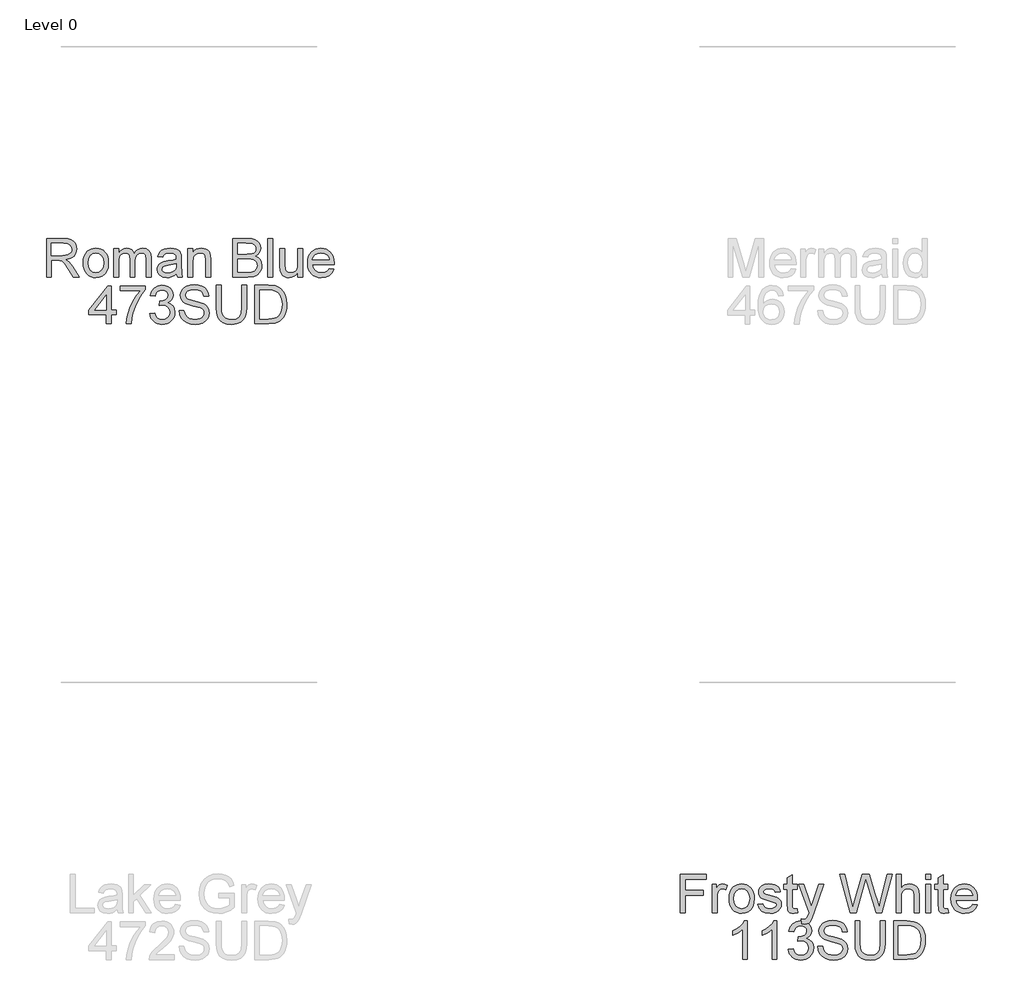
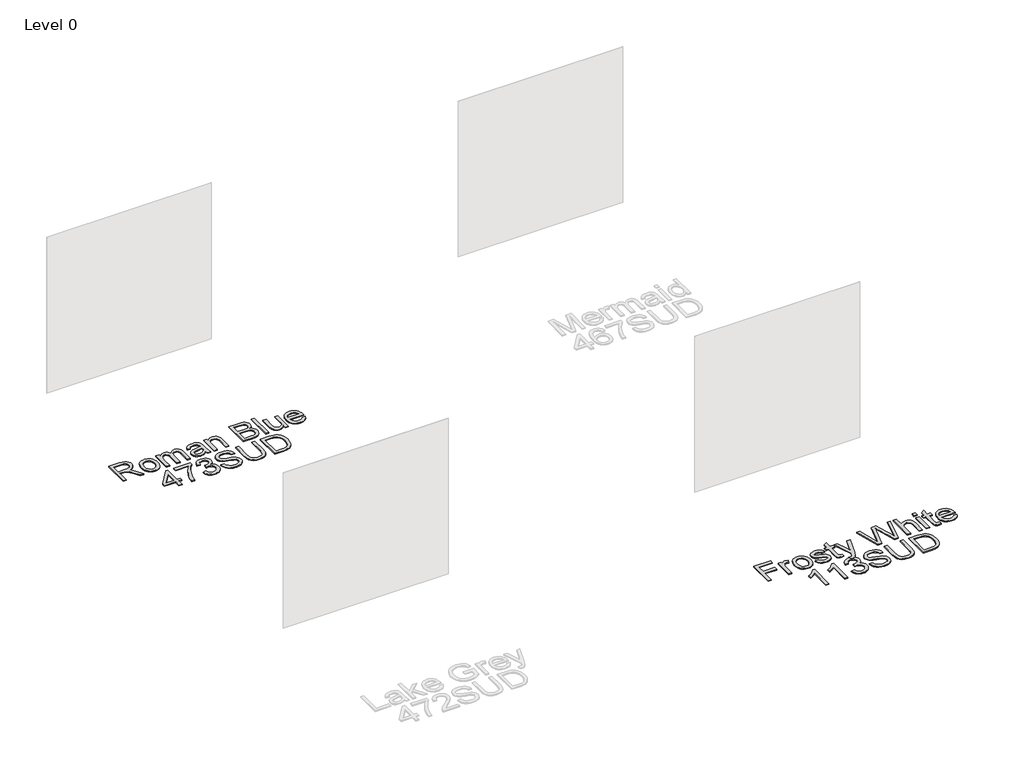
# One storey, part 16 of 37: 2 proxies.
"""IFC4 building model written with IfcOpenShell, lengths in millimetres."""

from ifc_helpers import new_model, si_unit, origin, origin_with_axes, place, context, project, spatial, polyline, outline, extrude, element, save

model = new_model("IFC4")

# Units and contexts
model_context = context("Model", 3, world=origin())
ifc_project = project(units=[si_unit("LENGTHUNIT", "METRE", prefix="MILLI")], contexts=[model_context])

# Site, building, storey
site = spatial("IfcSite", under=ifc_project)
building = spatial("IfcBuilding", under=site)
storey = spatial("IfcBuildingStorey", under=building, Name="Level 0", Elevation=0.0)

# Proxies
placement = place(None, origin())
element("IfcBuildingElementProxy", 1, Name="300mm Arial", ObjectType="300mm Arial", at=placement, inside=storey, context=model_context, shape_type="SweptSolid", body=[
    extrude(outline(polyline([(4435.6895679, -41911.860494), (4435.6895679, -41610.4915635), (4565.5519122, -41610.4915635), (4600.4547165, -41612.5241116), (4625.8477712, -41618.6217556), (4644.4074179, -41629.8789447), (4658.809998, -41647.3901276), (4668.0530331, -41669.1043624), (4671.1340448, -41692.9707069), (4666.0296821, -41722.6587839), (4650.7165941, -41747.2700893), (4639.1168149, -41757.2994722), (4624.7349282, -41765.3147012), (4587.6248319, -41775.3026974), (4609.035564, -41791.4159288), (4639.5697696, -41830.1906911), (4689.8224502, -41911.860494), (4646.0444927, -41911.860494), (4606.828272, -41849.3941312), (4578.5013584, -41808.0441949), (4558.5989425, -41788.509661), (4540.6830893, -41781.3359621), (4518.8308988, -41780.0115869), (4473.3606842, -41780.0115869), (4473.3606842, -41911.860494), (4435.6895679, -41911.860494)]), holes=[polyline([(4473.3606842, -41742.3404706), (4557.6792375, -41742.3404706), (4581.8950698, -41741.0068984), (4600.6846427, -41737.0061817), (4614.8297054, -41730.0716061), (4625.1120072, -41719.9364571), (4631.3751982, -41707.6767896), (4633.4629285, -41694.3686584), (4629.4806059, -41675.9929528), (4617.5336381, -41661.1857025), (4596.9782316, -41651.4184355), (4567.170593, -41648.1626798), (4473.3606842, -41648.1626798), (4473.3606842, -41742.3404706)])]), origin_with_axes(), (0.0, 0.0, 1.0), 10.0),
    extrude(outline(polyline([(4722.9318297, -41801.2015898), (4724.9689763, -41772.5389839), (4731.0804159, -41747.8403064), (4741.2661487, -41727.1055575), (4755.5261745, -41710.334737), (4769.8827694, -41699.6155754), (4785.7292863, -41691.9590314), (4803.0657253, -41687.3651049), (4821.8920864, -41685.8337961), (4842.6751199, -41687.698498), (4861.4669921, -41693.2926036), (4878.2677029, -41702.6161129), (4893.0772525, -41715.669026), (4905.1644753, -41732.0098843), (4913.7982059, -41751.1972296), (4918.9784442, -41773.2310619), (4920.7051903, -41798.1113811), (4917.6517698, -41836.1687735), (4908.4915081, -41865.1394806), (4893.4911197, -41886.8353213), (4872.9173192, -41903.0681143), (4848.4807576, -41913.1940662), (4821.8920864, -41916.5693835), (4800.8055503, -41914.7115794), (4781.8389342, -41909.1381672), (4764.9922381, -41899.8491468), (4750.265462, -41886.8445183), (4738.3069979, -41870.3450108), (4729.7652378, -41850.5713536), (4724.6401817, -41827.5235466), (4722.9318297, -41801.2015898)]), holes=[polyline([(4760.602946, -41801.1280134), (4764.9623477, -41835.2214773), (4778.0405526, -41859.5108861), (4797.7222393, -41874.0514219), (4821.8920864, -41878.8982672), (4845.9515689, -41874.0238308), (4865.5964675, -41859.4005215), (4878.6746724, -41834.789216), (4883.034074, -41799.950791), (4878.6470812, -41766.8506085), (4865.4861029, -41742.8922936), (4845.8136132, -41728.3517577), (4821.8920864, -41723.5049125), (4797.7222393, -41728.3333636), (4778.0405526, -41742.8187172), (4764.9623477, -41767.0529436), (4760.602946, -41801.1280134)])]), origin_with_axes(), (0.0, 0.0, 1.0), 10.0),
    extrude(outline(polyline([(4963.0851962, -41911.860494), (4963.0851962, -41690.5426857), (5000.7563125, -41690.5426857), (5000.7563125, -41726.9630032), (5012.0870779, -41710.2335695), (5026.6552049, -41697.1277734), (5043.9640528, -41688.6572905), (5063.5169809, -41685.8337961), (5084.4678605, -41688.7124728), (5101.2616736, -41697.3485026), (5113.8064496, -41711.1716686), (5122.0102181, -41729.6117536), (5135.7414136, -41710.4588972), (5151.4039895, -41696.7782855), (5168.9979459, -41688.5699185), (5188.5232828, -41685.8337961), (5216.8409994, -41690.3863358), (5237.782682, -41704.0439549), (5250.7229312, -41727.1745354), (5255.0363476, -41760.1459592), (5255.0363476, -41911.860494), (5217.3652312, -41911.860494), (5217.3652312, -41776.332767), (5213.8703523, -41744.8788564), (5208.9591277, -41736.2060383), (5201.2152117, -41729.3910244), (5191.2548066, -41724.9764404), (5179.6941149, -41723.5049125), (5159.2858613, -41727.2757029), (5142.648398, -41738.5880743), (5131.584347, -41758.2145787), (5127.89633, -41786.9277684), (5127.89633, -41911.860494), (5090.2252137, -41911.860494), (5090.2252137, -41772.1389122), (5088.0455129, -41750.8385447), (5081.5064104, -41735.6450183), (5070.000901, -41726.5399389), (5052.9219794, -41723.5049125), (5038.4090347, -41725.5282634), (5025.0365242, -41731.5983163), (5014.0000643, -41741.5679184), (5006.4952716, -41755.2899168), (5002.1910523, -41774.3278101), (5000.7563125, -41800.2450966), (5000.7563125, -41911.860494), (4963.0851962, -41911.860494)])), origin_with_axes(), (0.0, 0.0, 1.0), 10.0),
    extrude(outline(polyline([(5452.8097082, -41883.6071568), (5434.8110815, -41899.0398064), (5416.279026, -41909.1381672), (5396.7904773, -41914.7115794), (5375.9223712, -41916.5693835), (5344.4408694, -41912.0996173), (5321.2183185, -41898.6903186), (5306.8985118, -41878.3280501), (5302.1252429, -41852.9993748), (5303.9278647, -41837.3827841), (5309.33573, -41823.2009331), (5317.6774543, -41811.0608273), (5328.2816528, -41801.5694718), (5354.6587918, -41789.2086368), (5387.2531366, -41783.5432541), (5425.7703815, -41777.5835657), (5452.588979, -41770.5938078), (5452.8097082, -41762.2060983), (5450.2161401, -41745.3938912), (5442.4354359, -41734.3942195), (5425.0346175, -41726.2272392), (5400.791194, -41723.5049125), (5378.3503923, -41725.3167313), (5362.6786193, -41730.7521878), (5351.9916474, -41740.8045633), (5344.5052488, -41756.4671392), (5306.8341325, -41751.7582497), (5313.3732349, -41731.156858), (5323.1313049, -41714.9700502), (5337.0188502, -41702.590821), (5355.9463788, -41693.4121652), (5379.0953534, -41687.7283884), (5405.6472364, -41685.8337961), (5431.1138675, -41687.5076592), (5451.301392, -41692.5292485), (5466.5225095, -41700.0800264), (5477.0899198, -41709.3414556), (5484.0980718, -41720.7917827), (5488.6414145, -41734.9092543), (5490.4808245, -41767.8714811), (5490.4808245, -41814.7396473), (5492.3938108, -41880.1858542), (5499.8986035, -41911.860494), (5462.2274872, -41911.860494), (5452.8097082, -41883.6071568)]), holes=[polyline([(5452.8097082, -41808.2649241), (5392.0356026, -41819.8164188), (5359.6251988, -41825.9232599), (5344.9467072, -41835.8560738), (5339.7963592, -41850.3506244), (5342.6014595, -41861.5526311), (5351.0167601, -41870.7312869), (5364.8583202, -41876.8565221), (5383.9421987, -41878.8982672), (5404.1757084, -41876.64499), (5422.0547734, -41869.8851583), (5436.549324, -41859.9247533), (5446.6292906, -41848.069756), (5451.0990569, -41835.8560738), (5452.588979, -41818.933502), (5452.8097082, -41808.2649241)])]), origin_with_axes(), (0.0, 0.0, 1.0), 10.0),
    extrude(outline(polyline([(5542.2786094, -41911.860494), (5542.2786094, -41690.5426857), (5579.9497257, -41690.5426857), (5579.9497257, -41721.4447733), (5593.0371277, -41705.8649708), (5608.7548859, -41694.7365404), (5627.1030004, -41688.0594822), (5648.0814712, -41685.8337961), (5666.6503149, -41687.6272209), (5683.6556601, -41693.0074951), (5697.837511, -41701.303234), (5707.9358718, -41711.8430532), (5719.2298491, -41739.5445674), (5721.2164118, -41775.964885), (5721.2164118, -41911.860494), (5683.5452955, -41911.860494), (5683.5452955, -41781.0416565), (5679.204288, -41747.7115477), (5673.1986144, -41737.7879309), (5663.8636088, -41730.0900002), (5651.8982469, -41725.1511844), (5638.0015045, -41723.5049125), (5615.9377819, -41727.2021265), (5597.1298149, -41738.2937687), (5589.6135259, -41747.3482643), (5584.244748, -41759.7228949), (5579.9497257, -41794.4325611), (5579.9497257, -41911.860494), (5542.2786094, -41911.860494)])), origin_with_axes(), (0.0, 0.0, 1.0), 10.0),
    extrude(outline(polyline([(5895.4453248, -41911.860494), (5895.4453248, -41610.4915635), (6010.4452364, -41610.4915635), (6042.073891, -41612.7080526), (6066.7679699, -41619.3575196), (6085.6954986, -41630.6055116), (6100.0245023, -41646.6175755), (6109.0468082, -41665.4531336), (6112.0542435, -41685.1716086), (6109.5250548, -41703.317388), (6101.9374886, -41720.3779155), (6089.2363628, -41735.3047274), (6071.3664948, -41747.0493601), (6092.7128476, -41758.1961846), (6108.4857882, -41775.1555446), (6118.225464, -41796.8054), (6121.4720226, -41822.0237108), (6119.2555336, -41843.0389697), (6112.6060665, -41862.5275184), (6102.6824497, -41879.1006023), (6090.6435114, -41891.3694668), (6075.9006404, -41900.253817), (6057.8652256, -41906.6733578), (6009.5623197, -41911.860494), (5895.4453248, -41911.860494)]), holes=[polyline([(5933.1164411, -41732.9226915), (6001.9103742, -41732.9226915), (6042.083088, -41729.68533), (6056.1453773, -41724.1027207), (6066.2529351, -41715.7426024), (6072.3505792, -41704.7337336), (6074.3831272, -41691.2048733), (6072.4885349, -41678.071486), (6066.8047581, -41666.630356), (6057.5893141, -41657.7000206), (6045.0997204, -41652.0990172), (5996.6864498, -41648.1626798), (5933.1164411, -41648.1626798), (5933.1164411, -41732.9226915)]), polyline([(5933.1164411, -41874.1893777), (6010.37166, -41874.1893777), (6038.3306917, -41872.7178497), (6061.985504, -41864.5140812), (6077.657277, -41847.7754504), (6082.264999, -41835.9480443), (6083.8009063, -41822.3915928), (6081.9982845, -41806.6462434), (6076.5904192, -41793.1081859), (6067.145049, -41782.5223815), (6053.2299125, -41775.6337912), (6033.5206346, -41771.8538037), (6006.6928401, -41770.5938078), (5933.1164411, -41770.5938078), (5933.1164411, -41874.1893777)])]), origin_with_axes(), (0.0, 0.0, 1.0), 10.0),
    extrude(outline(polyline([(6168.560918, -41911.860494), (6168.560918, -41610.4915635), (6206.2320343, -41610.4915635), (6206.2320343, -41911.860494), (6168.560918, -41911.860494)])), origin_with_axes(), (0.0, 0.0, 1.0), 10.0),
    extrude(outline(polyline([(6404.0053949, -41911.860494), (6404.0053949, -41873.8214957), (6390.375367, -41892.5236966), (6374.5012589, -41905.8824116), (6356.3830706, -41913.8976405), (6336.0208022, -41916.5693835), (6317.6726877, -41914.6931853), (6300.593766, -41909.0645908), (6286.2647623, -41900.6033049), (6276.1664016, -41890.2290327), (6264.9460007, -41862.4907302), (6262.7387087, -41827.4683643), (6262.7387087, -41690.5426857), (6300.409825, -41690.5426857), (6300.409825, -41809.7364521), (6302.6906934, -41848.1433324), (6308.1813322, -41860.9548229), (6317.5899142, -41870.6944987), (6330.2910401, -41876.8473251), (6345.6593105, -41878.8982672), (6361.9104976, -41876.8013398), (6377.113221, -41870.5105577), (6389.6488, -41860.605335), (6397.8985538, -41847.6650858), (6402.4786846, -41829.9423707), (6404.0053949, -41805.6897502), (6404.0053949, -41690.5426857), (6441.6765112, -41690.5426857), (6441.6765112, -41911.860494), (6404.0053949, -41911.860494)])), origin_with_axes(), (0.0, 0.0, 1.0), 10.0),
    extrude(outline(polyline([(6648.4261925, -41845.9360404), (6685.3615448, -41850.64493), (6672.0534136, -41878.4752029), (6650.8174255, -41899.2789297), (6622.1318269, -41912.2467701), (6586.4748645, -41916.5693835), (6563.1005622, -41914.7046817), (6542.2738428, -41909.1105761), (6523.9947061, -41899.7870668), (6508.2631523, -41886.7341537), (6495.6126102, -41870.3151204), (6486.5765087, -41850.8932503), (6481.1548478, -41828.4685435), (6479.3476275, -41803.0409998), (6481.1732419, -41776.7512327), (6486.6500851, -41753.5792656), (6495.7781571, -41733.5250983), (6508.5574579, -41716.5887309), (6524.247625, -41703.133447), (6542.1082959, -41693.5225298), (6562.1394705, -41687.7559796), (6584.3411489, -41685.8337961), (6605.8277567, -41687.751381), (6625.2588238, -41693.5041357), (6642.6343503, -41703.0920602), (6657.9543362, -41716.5151545), (6670.4600247, -41733.4147337), (6679.3926594, -41753.4321128), (6684.7522402, -41776.5672917), (6686.5387672, -41802.8202706), (6686.318038, -41812.9738137), (6517.0187438, -41812.9738137), (6523.5394522, -41841.1719686), (6538.6869933, -41861.902119), (6560.5483809, -41874.6492302), (6587.2106285, -41878.8982672), (6607.2601972, -41876.9300985), (6624.1459808, -41871.0255925), (6637.8679792, -41860.8168672), (6648.4261925, -41845.9360404)]), holes=[polyline([(6517.0187438, -41775.3026974), (6648.8676509, -41775.3026974), (6643.7724852, -41755.4002814), (6633.7844891, -41741.1632482), (6611.821934, -41727.9194964), (6584.1939961, -41723.5049125), (6558.8009414, -41727.0273826), (6537.8040765, -41737.5947929), (6523.2083584, -41754.0667092), (6517.0187438, -41775.3026974)])]), origin_with_axes(), (0.0, 0.0, 1.0), 10.0),
    extrude(outline(polyline([(4904.224077, -42277.7849475), (4904.224077, -42207.1516044), (4767.6662803, -42207.1516044), (4767.6662803, -42169.4804881), (4913.641856, -41981.1249066), (4941.8951933, -41981.1249066), (4941.8951933, -42169.4804881), (4979.5663096, -42169.4804881), (4979.5663096, -42207.1516044), (4941.8951933, -42207.1516044), (4941.8951933, -42277.7849475), (4904.224077, -42277.7849475)]), holes=[polyline([(4904.224077, -42169.4804881), (4904.224077, -42053.0826249), (4814.0194117, -42169.4804881), (4904.224077, -42169.4804881)])]), origin_with_axes(), (0.0, 0.0, 1.0), 10.0),
    extrude(outline(polyline([(5012.5285363, -42018.7960229), (5012.5285363, -41981.1249066), (5210.3018969, -41981.1249066), (5210.3018969, -42011.5855358), (5182.1129391, -42047.2608923), (5154.1998927, -42092.6299393), (5129.5793901, -42143.5540045), (5111.2680638, -42195.8944154), (5102.2917432, -42235.0554538), (5097.288548, -42277.7849475), (5059.6174317, -42277.7849475), (5063.6917248, -42238.9550029), (5074.5902289, -42192.8042066), (5092.0186384, -42143.8850983), (5115.6826478, -42096.7502177), (5143.3105856, -42054.1402856), (5172.6307806, -42018.7960229), (5012.5285363, -42018.7960229)])), origin_with_axes(), (0.0, 0.0, 1.0), 10.0),
    extrude(outline(polyline([(5243.2641237, -42197.7338254), (5280.93524, -42193.0249358), (5289.3689348, -42216.6981422), (5301.7205727, -42232.6826149), (5318.5971593, -42241.7876943), (5340.6056996, -42244.8227207), (5366.4310157, -42240.6472601), (5386.3702198, -42228.1208782), (5399.117331, -42209.4324728), (5403.366368, -42186.7709419), (5399.1541192, -42165.2590422), (5386.5173726, -42147.8122386), (5367.3875089, -42136.2515469), (5343.6959084, -42132.397983), (5317.2819811, -42136.5182614), (5321.4758359, -42098.8471451), (5327.5091006, -42099.2886035), (5350.078661, -42096.5846708), (5370.2569884, -42088.4728728), (5384.4940217, -42074.7508744), (5389.2396994, -42055.2163404), (5385.8000027, -42038.9467592), (5375.4809128, -42025.7489926), (5359.7355634, -42017.0025982), (5340.0170884, -42014.0871334), (5320.2618253, -42017.0301893), (5304.1118057, -42025.8593572), (5292.3211878, -42040.574637), (5285.6441295, -42061.1760288), (5247.9730132, -42056.4671392), (5259.0646554, -42022.6403898), (5278.8015244, -41997.3852908), (5305.8040629, -41981.6583355), (5338.6927133, -41976.4160171), (5362.3751167, -41979.0003881), (5384.1261397, -41986.7535011), (5402.4650571, -41998.9855775), (5415.911144, -42015.0068384), (5424.1608978, -42033.4653175), (5426.9108157, -42053.0090485), (5424.2988535, -42071.2192072), (5416.462967, -42087.7371088), (5403.5135208, -42101.8085951), (5385.5608794, -42112.6795081), (5409.1421153, -42122.2076518), (5426.6165101, -42138.4312477), (5437.4322408, -42160.4673793), (5441.0374843, -42187.4331295), (5439.2348625, -42206.5445992), (5433.8269972, -42224.1477526), (5424.8138883, -42240.2425899), (5412.1955359, -42254.829111), (5396.822667, -42266.9324287), (5379.5460088, -42275.5776555), (5360.3655613, -42280.7647917), (5339.2813244, -42282.4938371), (5320.2250371, -42281.0177105), (5302.8610069, -42276.589331), (5287.1892339, -42269.2086985), (5273.2097181, -42258.875813), (5261.488078, -42246.1976797), (5252.5899323, -42231.781304), (5246.5152808, -42215.6266859), (5243.2641237, -42197.7338254)])), origin_with_axes(), (0.0, 0.0, 1.0), 10.0),
    extrude(outline(polyline([(5473.9997111, -42174.1893777), (5511.6708274, -42174.1893777), (5515.9934408, -42195.0942721), (5523.8109332, -42211.8972822), (5536.0062214, -42225.2330045), (5553.462222, -42235.7360355), (5574.7993778, -42242.5510494), (5598.638131, -42244.8227207), (5619.6257989, -42243.1028724), (5638.0015045, -42237.9433274), (5652.8915283, -42229.7763471), (5663.4221504, -42219.0341929), (5669.6853414, -42206.700949), (5671.7730717, -42193.7606998), (5670.2095732, -42181.1515444), (5665.5190778, -42170.2530403), (5655.9909341, -42160.9548229), (5639.9144909, -42153.1465276), (5585.0632854, -42138.7623415), (5549.0568351, -42129.2433949), (5526.0182252, -42120.1843008), (5507.2654405, -42107.510766), (5493.9757034, -42092.1516928), (5486.0570435, -42074.4381747), (5483.4174902, -42054.7013056), (5486.6824429, -42032.637583), (5496.477301, -42012.0637824), (5512.5445471, -41994.6261758), (5534.6266639, -41981.9710352), (5561.1325616, -41974.2731044), (5590.4711508, -41971.7071275), (5622.2561551, -41974.3926661), (5650.068034, -41982.4492818), (5672.9135059, -41995.7114277), (5689.7992895, -42014.013557), (5700.4862614, -42036.2152354), (5704.7352985, -42061.1760288), (5667.0641821, -42061.1760288), (5660.1480006, -42038.6984389), (5645.7270264, -42022.4748429), (5623.1942542, -42012.6523936), (5591.9426787, -42009.3782438), (5559.9553393, -42012.6156054), (5538.0111782, -42022.3276901), (5525.3192494, -42036.6199056), (5521.0886065, -42053.5976597), (5524.0868447, -42068.0738162), (5533.0815595, -42079.7172813), (5554.3451388, -42090.1283418), (5594.5914291, -42100.7601314), (5636.1253064, -42110.8584922), (5661.2516466, -42119.669266), (5682.7267581, -42133.3360821), (5697.7087523, -42150.2034716), (5706.5103291, -42170.0874934), (5709.444188, -42192.8042066), (5706.0688707, -42216.0267576), (5695.9429188, -42237.869751), (5679.4801995, -42256.668521), (5657.0945801, -42270.7584014), (5630.1748151, -42279.5599781), (5600.109659, -42282.4938371), (5563.2018979, -42279.3300519), (5532.8240421, -42269.8386964), (5508.6266039, -42253.9829824), (5490.2600953, -42231.7261217), (5478.4694773, -42204.6132187), (5473.9997111, -42174.1893777)])), origin_with_axes(), (0.0, 0.0, 1.0), 10.0),
    extrude(outline(polyline([(5963.7242231, -41976.4160171), (6001.3953394, -41976.4160171), (6001.3953394, -42150.277048), (5998.8385595, -42190.9923878), (5991.1682199, -42222.3451308), (5976.8392162, -42246.533372), (5954.306444, -42265.7552063), (5923.514721, -42278.3091794), (5884.4088649, -42282.4938371), (5846.1583345, -42278.8518053), (5815.5781436, -42267.92571), (5792.6590953, -42250.0926303), (5777.3919925, -42225.7296452), (5768.811145, -42193.052527), (5765.9508625, -42150.277048), (5765.9508625, -41976.4160171), (5803.6219788, -41976.4160171), (5803.6219788, -42148.9526728), (5805.4797828, -42182.8070134), (5811.0531951, -42206.3790523), (5821.1515558, -42222.7038158), (5836.5842055, -42234.8163305), (5856.7073507, -42242.3211232), (5880.8771977, -42244.8227207), (5919.1921075, -42239.8747079), (5933.5349068, -42233.6896919), (5944.6679357, -42225.0306694), (5953.0050614, -42212.8537754), (5958.9601512, -42196.1151446), (5963.7242231, -42148.9526728), (5963.7242231, -41976.4160171)])), origin_with_axes(), (0.0, 0.0, 1.0), 10.0),
    extrude(outline(polyline([(6067.3197929, -42277.7849475), (6067.3197929, -41976.4160171), (6171.2832447, -41976.4160171), (6225.0675924, -41980.7570246), (6249.0902867, -41989.12634), (6269.3605847, -42002.3149095), (6290.2010997, -42025.270746), (6305.0451382, -42053.8183889), (6313.9294884, -42087.406015), (6316.8909384, -42125.4818015), (6314.8859816, -42157.8278259), (6308.8711109, -42186.2926953), (6299.7108493, -42210.5269217), (6288.2697192, -42230.1810173), (6275.0995438, -42245.6964405), (6260.752146, -42257.5146496), (6244.2802296, -42266.2794381), (6224.7364986, -42272.6345996), (6176.2864399, -42277.7849475), (6067.3197929, -42277.7849475)]), holes=[polyline([(6104.9909092, -42240.1138312), (6171.6511267, -42240.1138312), (6199.2238823, -42238.7526678), (6220.1379737, -42234.6691777), (6235.9201113, -42228.1024841), (6248.0970053, -42219.2917103), (6261.1844073, -42202.9853408), (6271.0160536, -42181.8781114), (6277.16888, -42155.8780514), (6279.2198221, -42124.8931903), (6275.2007113, -42083.8375597), (6263.1433789, -42053.5240833), (6245.3286933, -42032.7019623), (6224.0375228, -42020.1203981), (6202.3692733, -42015.5954496), (6170.6210571, -42014.0871334), (6104.9909092, -42014.0871334), (6104.9909092, -42240.1138312)])]), origin_with_axes(), (0.0, 0.0, 1.0), 10.0),
])
element("IfcBuildingElementProxy", 2, Name="300mm Arial", ObjectType="300mm Arial", at=placement, inside=storey, context=model_context, shape_type="SweptSolid", body=[
    extrude(outline(polyline([(9398.0184516, -46891.860494), (9398.0184516, -46590.4915635), (9600.5007017, -46590.4915635), (9600.5007017, -46628.1626798), (9435.6895679, -46628.1626798), (9435.6895679, -46717.6315811), (9576.956254, -46717.6315811), (9576.956254, -46755.3026974), (9435.6895679, -46755.3026974), (9435.6895679, -46891.860494), (9398.0184516, -46891.860494)])), origin_with_axes(), (0.0, 0.0, 1.0), 10.0),
    extrude(outline(polyline([(9647.5895971, -46891.860494), (9647.5895971, -46670.5426857), (9680.5518239, -46670.5426857), (9680.5518239, -46703.2841833), (9692.7287179, -46684.3014723), (9703.9491188, -46673.1178596), (9715.2063078, -46667.654812), (9727.4935665, -46665.8337961), (9746.2555482, -46668.7400639), (9765.3118356, -46677.4588672), (9752.7302713, -46711.2304343), (9739.4865195, -46705.4362929), (9726.2427677, -46703.5049125), (9714.9947757, -46705.3627165), (9704.9424002, -46710.9361288), (9696.8214051, -46719.8020848), (9691.3675545, -46731.5375205), (9686.7874237, -46752.5803706), (9685.2607134, -46775.5362071), (9685.2607134, -46891.860494), (9647.5895971, -46891.860494)])), origin_with_axes(), (0.0, 0.0, 1.0), 10.0),
    extrude(outline(polyline([(9779.4385042, -46781.2015898), (9781.4756507, -46752.5389839), (9787.5870904, -46727.8403064), (9797.7728231, -46707.1055575), (9812.032849, -46690.334737), (9826.3894438, -46679.6155754), (9842.2359608, -46671.9590314), (9859.5723998, -46667.3651049), (9878.3987609, -46665.8337961), (9899.1817944, -46667.698498), (9917.9736665, -46673.2926036), (9934.7743774, -46682.6161129), (9949.583927, -46695.669026), (9961.6711498, -46712.0098843), (9970.3048803, -46731.1972296), (9975.4851187, -46753.2310619), (9977.2118648, -46778.1113811), (9974.1584442, -46816.1687735), (9964.9981826, -46845.1394806), (9949.9977942, -46866.8353213), (9929.4239936, -46883.0681143), (9904.9874321, -46893.1940662), (9878.3987609, -46896.5693835), (9857.3122248, -46894.7115794), (9838.3456087, -46889.1381672), (9821.4989125, -46879.8491468), (9806.7721364, -46866.8445183), (9794.8136723, -46850.3450108), (9786.2719122, -46830.5713536), (9781.1468562, -46807.5235466), (9779.4385042, -46781.2015898)]), holes=[polyline([(9817.1096205, -46781.1280134), (9821.4690221, -46815.2214773), (9834.5472271, -46839.5108861), (9854.2289138, -46854.0514219), (9878.3987609, -46858.8982672), (9902.4582434, -46854.0238308), (9922.1031419, -46839.4005215), (9935.1813468, -46814.789216), (9939.5407485, -46779.950791), (9935.1537557, -46746.8506085), (9921.9927773, -46722.8922936), (9902.3202876, -46708.3517577), (9878.3987609, -46703.5049125), (9854.2289138, -46708.3333636), (9834.5472271, -46722.8187172), (9821.4690221, -46747.0529436), (9817.1096205, -46781.1280134)])]), origin_with_axes(), (0.0, 0.0, 1.0), 10.0),
    extrude(outline(polyline([(10005.465202, -46825.9360404), (10043.1363183, -46821.2271509), (10049.0776126, -46837.3403823), (10060.5739249, -46849.1861825), (10077.6988318, -46856.470246), (10100.5259096, -46858.8982672), (10123.0770759, -46856.6725811), (10138.9327899, -46849.9955229), (10148.3137808, -46840.3202265), (10151.4407777, -46829.0998256), (10148.2953867, -46819.4981055), (10138.8592135, -46812.1772538), (10100.0844512, -46801.4350996), (10043.3570475, -46783.0042116), (10029.0004527, -46773.7427824), (10018.5985893, -46761.4831149), (10012.280216, -46747.0069584), (10010.1740916, -46731.0960621), (10011.8663487, -46716.5003439), (10016.9431203, -46703.0266659), (10024.9445537, -46691.2084568), (10035.4107964, -46681.5791455), (10059.3599143, -46670.4323211), (10091.7703181, -46665.8337961), (10116.2896531, -46667.6824032), (10137.6084147, -46673.2282242), (10154.7517157, -46681.9286334), (10166.7446687, -46693.2410048), (10174.6909198, -46708.0022698), (10179.6941149, -46727.0493601), (10142.0229986, -46731.7582497), (10137.2681238, -46719.9032524), (10127.8595418, -46710.972917), (10113.7052821, -46705.3719136), (10094.7133741, -46703.5049125), (10073.0819127, -46705.2891401), (10058.6609385, -46710.6418232), (10050.5491405, -46718.3673451), (10047.8452079, -46727.2700893), (10052.3333682, -46738.2329728), (10066.3864604, -46746.5471059), (10098.8336524, -46754.5669334), (10154.1263163, -46772.2988455), (10168.7312315, -46780.7785255), (10179.8044795, -46792.3852025), (10186.7850404, -46807.1556646), (10189.111894, -46825.1267001), (10186.3803702, -46843.7047408), (10178.1857988, -46861.1791356), (10164.8408794, -46876.1795239), (10146.6583118, -46887.3355454), (10124.6957567, -46894.260924), (10100.0108748, -46896.5693835), (10062.0270588, -46892.1180114), (10034.3071504, -46878.763895), (10015.8026861, -46856.654187), (10005.465202, -46825.9360404)])), origin_with_axes(), (0.0, 0.0, 1.0), 10.0),
    extrude(outline(polyline([(10311.543022, -46860.4433716), (10316.2519115, -46892.96414), (10288.0721507, -46896.5693835), (10269.9907507, -46895.005885), (10256.5078755, -46890.3153896), (10246.9797319, -46883.0865084), (10240.7625261, -46873.9078526), (10237.3412236, -46858.1441091), (10236.2007894, -46831.1599648), (10236.2007894, -46708.213802), (10207.9474522, -46708.213802), (10207.9474522, -46670.5426857), (10236.2007894, -46670.5426857), (10236.2007894, -46616.758338), (10273.8719057, -46594.6118419), (10273.8719057, -46670.5426857), (10311.543022, -46670.5426857), (10311.543022, -46708.213802), (10273.8719057, -46708.213802), (10273.8719057, -46830.0563188), (10275.8584685, -46849.4804881), (10282.2964034, -46856.3598814), (10295.135485, -46858.8982672), (10311.543022, -46860.4433716)])), origin_with_axes(), (0.0, 0.0, 1.0), 10.0),
    extrude(outline(polyline([(10349.2141383, -46976.6205057), (10344.5052488, -46940.3473409), (10363.6351125, -46943.6582789), (10381.5141775, -46939.5012124), (10392.4770609, -46927.9129295), (10402.7777568, -46900.1746271), (10405.7208128, -46891.0511536), (10325.6696906, -46670.5426857), (10365.4009461, -46670.5426857), (10407.8545283, -46793.4152721), (10422.6433846, -46842.5643066), (10437.4322408, -46799.1542312), (10481.0630454, -46670.5426857), (10520.4999953, -46670.5426857), (10443.4655055, -46897.1579947), (10423.4527249, -46946.3070293), (10413.2072114, -46961.9971964), (10401.6005344, -46972.8681093), (10388.1176593, -46979.2140737), (10372.2435512, -46981.3293952), (10349.2141383, -46976.6205057)])), origin_with_axes(), (0.0, 0.0, 1.0), 10.0),
    extrude(outline(polyline([(10728.0590169, -46891.860494), (10645.8741792, -46590.4915635), (10684.7225179, -46590.4915635), (10732.4000245, -46788.5592297), (10747.1153043, -46849.7012173), (10762.8606537, -46795.622564), (10822.6046897, -46590.4915635), (10878.5963294, -46590.4915635), (10922.0064048, -46739.189466), (10940.6028397, -46794.3717653), (10954.306444, -46849.7012173), (10968.5802654, -46790.3250633), (11016.6992304, -46590.4915635), (11055.5475691, -46590.4915635), (10973.2891549, -46891.860494), (10933.0428647, -46891.860494), (10860.7908408, -46659.359073), (10850.7108741, -46626.9118811), (10839.3801087, -46665.9809489), (10773.5292316, -46891.860494), (10728.0590169, -46891.860494)])), origin_with_axes(), (0.0, 0.0, 1.0), 10.0),
    extrude(outline(polyline([(11088.5097958, -46891.860494), (11088.5097958, -46590.4915635), (11126.1809121, -46590.4915635), (11126.1809121, -46701.2976205), (11140.0178737, -46685.7821973), (11155.5562894, -46674.6997522), (11172.7961594, -46668.0502852), (11191.7374837, -46665.8337961), (11214.4909851, -46668.2526203), (11234.0439131, -46675.5090926), (11249.4397746, -46687.0329961), (11259.7220764, -46702.2541137), (11265.5162178, -46723.1682051), (11267.4475983, -46751.7710302), (11267.4475983, -46891.860494), (11229.776482, -46891.860494), (11229.776482, -46755.6705794), (11226.7782437, -46732.0893435), (11217.7835289, -46715.9393239), (11203.2889783, -46706.6135153), (11183.7912326, -46703.5049125), (11167.8711392, -46705.6018398), (11152.9259332, -46711.8926219), (11140.546704, -46721.7702535), (11132.3245414, -46734.6277292), (11127.7168195, -46751.7158479), (11126.1809121, -46774.2854083), (11126.1809121, -46891.860494), (11088.5097958, -46891.860494)])), origin_with_axes(), (0.0, 0.0, 1.0), 10.0),
    extrude(outline(polyline([(11319.2453832, -46628.1626798), (11319.2453832, -46590.4915635), (11356.9164995, -46590.4915635), (11356.9164995, -46628.1626798), (11319.2453832, -46628.1626798)])), origin_with_axes(), (0.0, 0.0, 1.0), 10.0),
    extrude(outline(polyline([(11319.2453832, -46891.860494), (11319.2453832, -46670.5426857), (11356.9164995, -46670.5426857), (11356.9164995, -46891.860494), (11319.2453832, -46891.860494)])), origin_with_axes(), (0.0, 0.0, 1.0), 10.0),
    extrude(outline(polyline([(11493.4742961, -46860.4433716), (11498.1831857, -46892.96414), (11470.0034248, -46896.5693835), (11451.9220248, -46895.005885), (11438.4391496, -46890.3153896), (11428.911006, -46883.0865084), (11422.6938002, -46873.9078526), (11419.2724977, -46858.1441091), (11418.1320635, -46831.1599648), (11418.1320635, -46708.213802), (11389.8787263, -46708.213802), (11389.8787263, -46670.5426857), (11418.1320635, -46670.5426857), (11418.1320635, -46616.758338), (11455.8031798, -46594.6118419), (11455.8031798, -46670.5426857), (11493.4742961, -46670.5426857), (11493.4742961, -46708.213802), (11455.8031798, -46708.213802), (11455.8031798, -46830.0563188), (11457.7897426, -46849.4804881), (11464.2276775, -46856.3598814), (11477.0667591, -46858.8982672), (11493.4742961, -46860.4433716)])), origin_with_axes(), (0.0, 0.0, 1.0), 10.0),
    extrude(outline(polyline([(11686.0973088, -46825.9360404), (11723.0326611, -46830.64493), (11709.7245299, -46858.4752029), (11688.4885418, -46879.2789297), (11659.8029432, -46892.2467701), (11624.1459808, -46896.5693835), (11600.7716785, -46894.7046817), (11579.9449591, -46889.1105761), (11561.6658224, -46879.7870668), (11545.9342686, -46866.7341537), (11533.2837265, -46850.3151204), (11524.247625, -46830.8932503), (11518.8259641, -46808.4685435), (11517.0187438, -46783.0409998), (11518.8443582, -46756.7512327), (11524.3212014, -46733.5792656), (11533.4492734, -46713.5250983), (11546.2285742, -46696.5887309), (11561.9187413, -46683.133447), (11579.7794122, -46673.5225298), (11599.8105868, -46667.7559796), (11622.0122652, -46665.8337961), (11643.498873, -46667.751381), (11662.9299401, -46673.5041357), (11680.3054666, -46683.0920602), (11695.6254525, -46696.5151545), (11708.131141, -46713.4147337), (11717.0637757, -46733.4321128), (11722.4233566, -46756.5672917), (11724.2098835, -46782.8202706), (11723.9891543, -46792.9738137), (11554.6898601, -46792.9738137), (11561.2105685, -46821.1719686), (11576.3581096, -46841.902119), (11598.2194972, -46854.6492302), (11624.8817448, -46858.8982672), (11644.9313135, -46856.9300985), (11661.8170971, -46851.0255925), (11675.5390955, -46840.8168672), (11686.0973088, -46825.9360404)]), holes=[polyline([(11554.6898601, -46755.3026974), (11686.5387672, -46755.3026974), (11681.4436015, -46735.4002814), (11671.4556054, -46721.1632482), (11649.4930503, -46707.9194964), (11621.8651124, -46703.5049125), (11596.4720577, -46707.0273826), (11575.4751928, -46717.5947929), (11560.8794747, -46734.0667092), (11554.6898601, -46755.3026974)])]), origin_with_axes(), (0.0, 0.0, 1.0), 10.0),
    extrude(outline(polyline([(9923.0596351, -47257.7849475), (9885.3885188, -47257.7849475), (9885.3885188, -47022.9290818), (9849.7039653, -47048.3497277), (9810.0462862, -47067.3692268), (9810.0462862, -47031.7582497), (9839.6331956, -47015.6634124), (9865.2653737, -46996.5151545), (9885.4712922, -46976.1528861), (9898.7794234, -46956.4160171), (9923.0596351, -46956.4160171), (9923.0596351, -47257.7849475)])), origin_with_axes(), (0.0, 0.0, 1.0), 10.0),
    extrude(outline(polyline([(10153.7952225, -47257.7849475), (10116.1241062, -47257.7849475), (10116.1241062, -47022.9290818), (10080.4395526, -47048.3497277), (10040.7818736, -47067.3692268), (10040.7818736, -47031.7582497), (10070.368783, -47015.6634124), (10096.000961, -46996.5151545), (10116.2068796, -46976.1528861), (10129.5150108, -46956.4160171), (10153.7952225, -46956.4160171), (10153.7952225, -47257.7849475)])), origin_with_axes(), (0.0, 0.0, 1.0), 10.0),
    extrude(outline(polyline([(10243.2641237, -47177.7338254), (10280.93524, -47173.0249358), (10289.3689348, -47196.6981422), (10301.7205727, -47212.6826149), (10318.5971593, -47221.7876943), (10340.6056996, -47224.8227207), (10366.4310157, -47220.6472601), (10386.3702198, -47208.1208782), (10399.117331, -47189.4324728), (10403.366368, -47166.7709419), (10399.1541192, -47145.2590422), (10386.5173726, -47127.8122386), (10367.3875089, -47116.2515469), (10343.6959084, -47112.397983), (10317.2819811, -47116.5182614), (10321.4758359, -47078.8471451), (10327.5091006, -47079.2886035), (10350.078661, -47076.5846708), (10370.2569884, -47068.4728728), (10384.4940217, -47054.7508744), (10389.2396994, -47035.2163404), (10385.8000027, -47018.9467592), (10375.4809128, -47005.7489926), (10359.7355634, -46997.0025982), (10340.0170884, -46994.0871334), (10320.2618253, -46997.0301893), (10304.1118057, -47005.8593572), (10292.3211878, -47020.574637), (10285.6441295, -47041.1760288), (10247.9730132, -47036.4671392), (10259.0646554, -47002.6403898), (10278.8015244, -46977.3852908), (10305.8040629, -46961.6583355), (10338.6927133, -46956.4160171), (10362.3751167, -46959.0003881), (10384.1261397, -46966.7535011), (10402.4650571, -46978.9855775), (10415.911144, -46995.0068384), (10424.1608978, -47013.4653175), (10426.9108157, -47033.0090485), (10424.2988535, -47051.2192072), (10416.462967, -47067.7371088), (10403.5135208, -47081.8085951), (10385.5608794, -47092.6795081), (10409.1421153, -47102.2076518), (10426.6165101, -47118.4312477), (10437.4322408, -47140.4673793), (10441.0374843, -47167.4331295), (10439.2348625, -47186.5445992), (10433.8269972, -47204.1477526), (10424.8138883, -47220.2425899), (10412.1955359, -47234.829111), (10396.822667, -47246.9324287), (10379.5460088, -47255.5776555), (10360.3655613, -47260.7647917), (10339.2813244, -47262.4938371), (10320.2250371, -47261.0177105), (10302.8610069, -47256.589331), (10287.1892339, -47249.2086985), (10273.2097181, -47238.875813), (10261.488078, -47226.1976797), (10252.5899323, -47211.781304), (10246.5152808, -47195.6266859), (10243.2641237, -47177.7338254)])), origin_with_axes(), (0.0, 0.0, 1.0), 10.0),
    extrude(outline(polyline([(10473.9997111, -47154.1893777), (10511.6708274, -47154.1893777), (10515.9934408, -47175.0942721), (10523.8109332, -47191.8972822), (10536.0062214, -47205.2330045), (10553.462222, -47215.7360355), (10574.7993778, -47222.5510494), (10598.638131, -47224.8227207), (10619.6257989, -47223.1028724), (10638.0015045, -47217.9433274), (10652.8915283, -47209.7763471), (10663.4221504, -47199.0341929), (10669.6853414, -47186.700949), (10671.7730717, -47173.7606998), (10670.2095732, -47161.1515444), (10665.5190778, -47150.2530403), (10655.9909341, -47140.9548229), (10639.9144909, -47133.1465276), (10585.0632854, -47118.7623415), (10549.0568351, -47109.2433949), (10526.0182252, -47100.1843008), (10507.2654405, -47087.510766), (10493.9757034, -47072.1516928), (10486.0570435, -47054.4381747), (10483.4174902, -47034.7013056), (10486.6824429, -47012.637583), (10496.477301, -46992.0637824), (10512.5445471, -46974.6261758), (10534.6266639, -46961.9710352), (10561.1325616, -46954.2731044), (10590.4711508, -46951.7071275), (10622.2561551, -46954.3926661), (10650.068034, -46962.4492818), (10672.9135059, -46975.7114277), (10689.7992895, -46994.013557), (10700.4862614, -47016.2152354), (10704.7352985, -47041.1760288), (10667.0641821, -47041.1760288), (10660.1480006, -47018.6984389), (10645.7270264, -47002.4748429), (10623.1942542, -46992.6523936), (10591.9426787, -46989.3782438), (10559.9553393, -46992.6156054), (10538.0111782, -47002.3276901), (10525.3192494, -47016.6199056), (10521.0886065, -47033.5976597), (10524.0868447, -47048.0738162), (10533.0815595, -47059.7172813), (10554.3451388, -47070.1283418), (10594.5914291, -47080.7601314), (10636.1253064, -47090.8584922), (10661.2516466, -47099.669266), (10682.7267581, -47113.3360821), (10697.7087523, -47130.2034716), (10706.5103291, -47150.0874934), (10709.444188, -47172.8042066), (10706.0688707, -47196.0267576), (10695.9429188, -47217.869751), (10679.4801995, -47236.668521), (10657.0945801, -47250.7584014), (10630.1748151, -47259.5599781), (10600.109659, -47262.4938371), (10563.2018979, -47259.3300519), (10532.8240421, -47249.8386964), (10508.6266039, -47233.9829824), (10490.2600953, -47211.7261217), (10478.4694773, -47184.6132187), (10473.9997111, -47154.1893777)])), origin_with_axes(), (0.0, 0.0, 1.0), 10.0),
    extrude(outline(polyline([(10963.7242231, -46956.4160171), (11001.3953394, -46956.4160171), (11001.3953394, -47130.277048), (10998.8385595, -47170.9923878), (10991.1682199, -47202.3451308), (10976.8392162, -47226.533372), (10954.306444, -47245.7552063), (10923.514721, -47258.3091794), (10884.4088649, -47262.4938371), (10846.1583345, -47258.8518053), (10815.5781436, -47247.92571), (10792.6590953, -47230.0926303), (10777.3919925, -47205.7296452), (10768.811145, -47173.052527), (10765.9508625, -47130.277048), (10765.9508625, -46956.4160171), (10803.6219788, -46956.4160171), (10803.6219788, -47128.9526728), (10805.4797828, -47162.8070134), (10811.0531951, -47186.3790523), (10821.1515558, -47202.7038158), (10836.5842055, -47214.8163305), (10856.7073507, -47222.3211232), (10880.8771977, -47224.8227207), (10919.1921075, -47219.8747079), (10933.5349068, -47213.6896919), (10944.6679357, -47205.0306694), (10953.0050614, -47192.8537754), (10958.9601512, -47176.1151446), (10963.7242231, -47128.9526728), (10963.7242231, -46956.4160171)])), origin_with_axes(), (0.0, 0.0, 1.0), 10.0),
    extrude(outline(polyline([(11067.3197929, -47257.7849475), (11067.3197929, -46956.4160171), (11171.2832447, -46956.4160171), (11225.0675924, -46960.7570246), (11249.0902867, -46969.12634), (11269.3605847, -46982.3149095), (11290.2010997, -47005.270746), (11305.0451382, -47033.8183889), (11313.9294884, -47067.406015), (11316.8909384, -47105.4818015), (11314.8859816, -47137.8278259), (11308.8711109, -47166.2926953), (11299.7108493, -47190.5269217), (11288.2697192, -47210.1810173), (11275.0995438, -47225.6964405), (11260.752146, -47237.5146496), (11244.2802296, -47246.2794381), (11224.7364986, -47252.6345996), (11176.2864399, -47257.7849475), (11067.3197929, -47257.7849475)]), holes=[polyline([(11104.9909092, -47220.1138312), (11171.6511267, -47220.1138312), (11199.2238823, -47218.7526678), (11220.1379737, -47214.6691777), (11235.9201113, -47208.1024841), (11248.0970053, -47199.2917103), (11261.1844073, -47182.9853408), (11271.0160536, -47161.8781114), (11277.16888, -47135.8780514), (11279.2198221, -47104.8931903), (11275.2007113, -47063.8375597), (11263.1433789, -47033.5240833), (11245.3286933, -47012.7019623), (11224.0375228, -47000.1203981), (11202.3692733, -46995.5954496), (11170.6210571, -46994.0871334), (11104.9909092, -46994.0871334), (11104.9909092, -47220.1138312)])]), origin_with_axes(), (0.0, 0.0, 1.0), 10.0),
])

save(model, "model.ifc")
